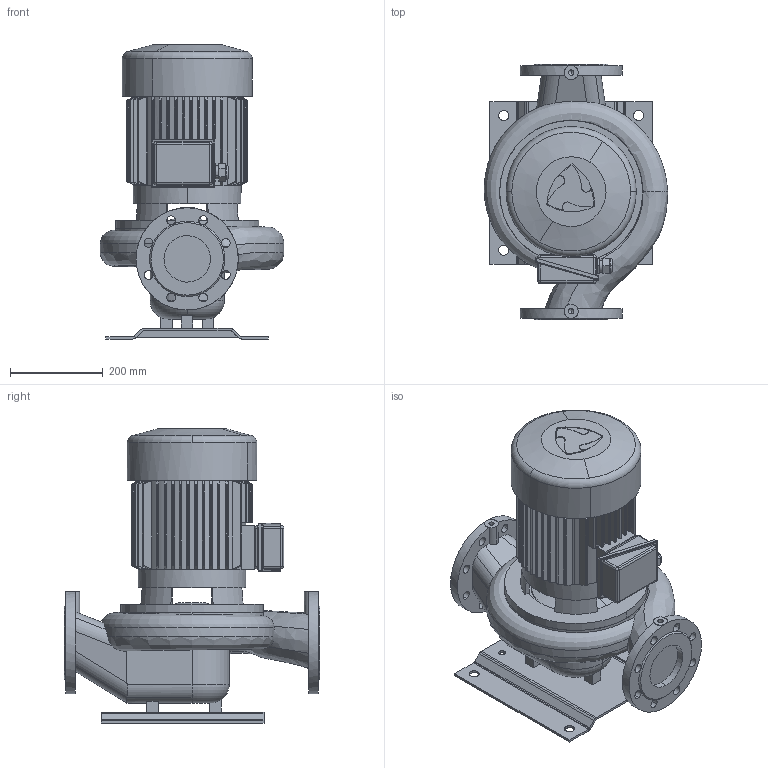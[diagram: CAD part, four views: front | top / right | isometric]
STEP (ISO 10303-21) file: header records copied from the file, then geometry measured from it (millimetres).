
FILE_DESCRIPTION(('STEP AP214'),'1');
FILE_NAME('export.stp','2018-05-28T09:38:16',(' '),(' '),'Spatial InterOp 3D',' ',' ');
FILE_SCHEMA(('AUTOMOTIVE_DESIGN { 1 0 10303 214 1 1 1 1 }'));
Length unit declared in the file: millimetre
Products named in the file (11): V_MOKN132; RU_OKN_132; TSUOJA_OKN_132_133; KYTKOTELO_OKN_100_133; W_AKN1002750KP132; V_EKN2627OKN132; V_TLAKN100127; V_PPAKN100; P100496; P100495; P100342
Assembly tree (11 placements, depth 3):
  W_AKN1002750KP132
    V_MOKN132
      RU_OKN_132
      TSUOJA_OKN_132_133
      KYTKOTELO_OKN_100_133
    V_EKN2627OKN132
    V_TLAKN100127
    V_PPAKN100
    P100496
      P100495  x2
      P100342
Bounding box: 395.27 x 550 x 633 mm (x, y, z)
Volume: 34692652.9 mm3; surface area: 1994862.4 mm2
Topology: 9 solids, 10 shells, 776 faces, 2044 edges, 1281 vertices
Faces by surface type: cylinder 341, plane 271, cone 100, bspline 40, torus 12, sphere 12
Entity records: 42714 total; most frequent: CARTESIAN_POINT 10720, ORIENTED_EDGE 4020, DIRECTION 3709, STYLED_ITEM 2237, PRESENTATION_STYLE_ASSIGNMENT 2237, COLOUR_RGB 2237, EDGE_CURVE 2010, AXIS2_PLACEMENT_3D 1486
